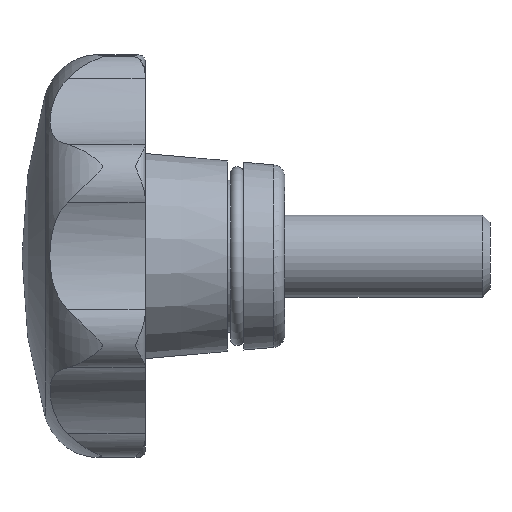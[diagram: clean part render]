
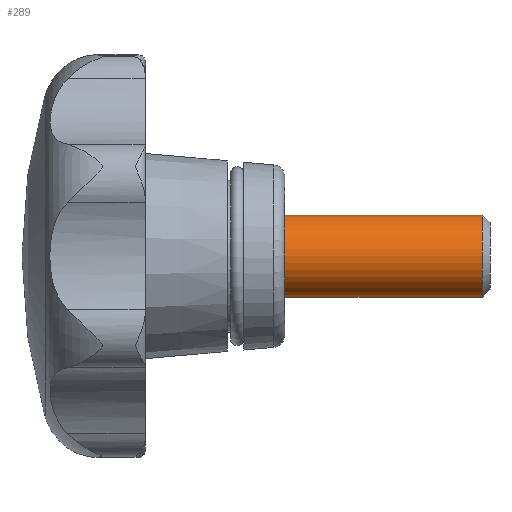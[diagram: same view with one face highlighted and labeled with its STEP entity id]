
A CAD part, left-side view. The second image highlights one B-rep face of the part: STEP entity #289.
In plain terms, the highlighted cylindrical face has radius 5 mm (diameter 10 mm), a full revolution.
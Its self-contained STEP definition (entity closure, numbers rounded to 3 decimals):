
#289 = ADVANCED_FACE( '', ( #615, #616 ), #617, .T. );
#615 = FACE_OUTER_BOUND( '', #997, .T. );
#616 = FACE_OUTER_BOUND( '', #998, .T. );
#617 = CYLINDRICAL_SURFACE( '', #999, 5. );
#997 = EDGE_LOOP( '', ( #2052 ) );
#998 = EDGE_LOOP( '', ( #2053 ) );
#999 = AXIS2_PLACEMENT_3D( '', #2054, #2055, #2056 );
#2052 = ORIENTED_EDGE( '', *, *, #2705, .F. );
#2053 = ORIENTED_EDGE( '', *, *, #2615, .T. );
#2054 = CARTESIAN_POINT( '', ( 0., -25., 0. ) );
#2055 = DIRECTION( '', ( 0., 1., 0. ) );
#2056 = DIRECTION( '', ( 0., 0., -1. ) );
#2615 = EDGE_CURVE( '', #3202, #3202, #3203, .T. );
#2705 = EDGE_CURVE( '', #3325, #3325, #3326, .T. );
#3202 = VERTEX_POINT( '', #4844 );
#3203 = CIRCLE( '', #4845, 5. );
#3325 = VERTEX_POINT( '', #5032 );
#3326 = CIRCLE( '', #5033, 5. );
#4844 = CARTESIAN_POINT( '', ( 0., 0., -5. ) );
#4845 = AXIS2_PLACEMENT_3D( '', #5594, #5595, #5596 );
#5032 = CARTESIAN_POINT( '', ( 0., -24.08, -5. ) );
#5033 = AXIS2_PLACEMENT_3D( '', #5795, #5796, #5797 );
#5594 = CARTESIAN_POINT( '', ( 0., 0., 0. ) );
#5595 = DIRECTION( '', ( 0., -1., 0. ) );
#5596 = DIRECTION( '', ( 0., 0., -1. ) );
#5795 = CARTESIAN_POINT( '', ( 0., -24.08, 0. ) );
#5796 = DIRECTION( '', ( 0., -1., 0. ) );
#5797 = DIRECTION( '', ( 0., 0., -1. ) );
